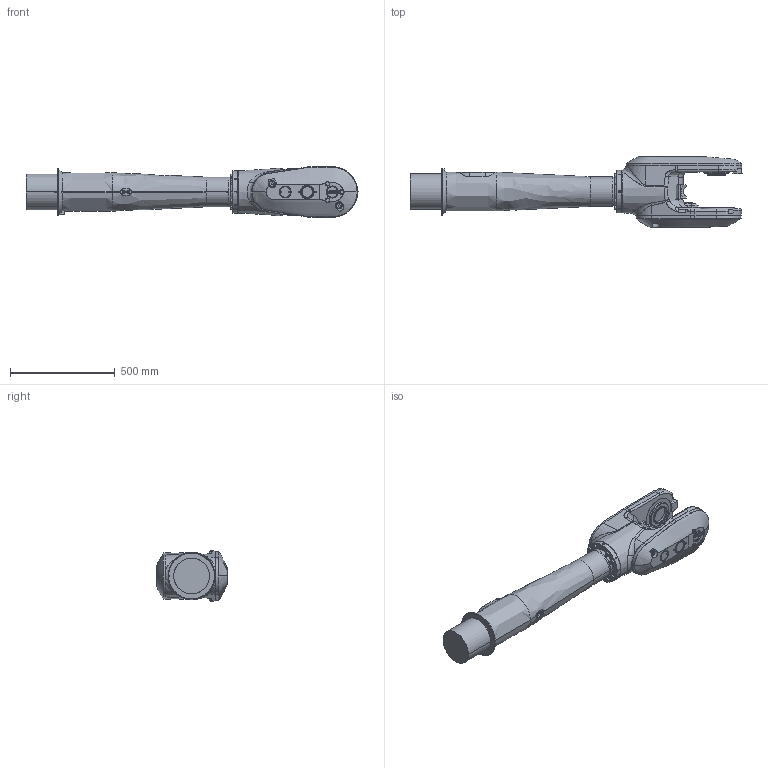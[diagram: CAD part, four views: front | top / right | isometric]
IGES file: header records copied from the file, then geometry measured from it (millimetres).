
Start section: SolidWorks IGES file using analytic representation for surfaces
Global section: file name: C:\Users\SEALDUN\OneDrive - ABB\Documents\R&D Robotics\Work Items\WI 632927 light weight hole removal\IGES\IRB5720-LID-MH_90kg-300_OC_03_IGES_J\IRB5720-LID_90kg-300_OmniCore_rev00_LINK04_CAD.igs; native system: SolidWorks 2024; preprocessor: SolidWorks 2024; author: SEALDUN; date: 250708.123120; units: millimetre
Bounding box: 1582.6 x 337 x 241.31 mm (x, y, z)
Surface area: 1281117.7 mm2 (no closed solid volume)
Topology: 0 solids, 0 shells, 736 faces, 11295 edges, 11270 vertices
Faces by surface type: bspline 438, revolution 298
